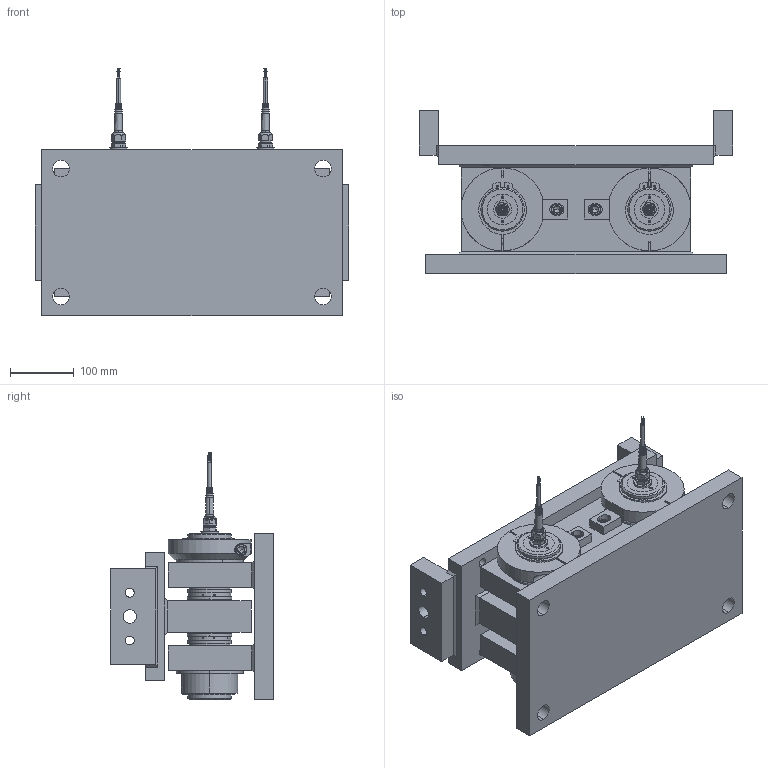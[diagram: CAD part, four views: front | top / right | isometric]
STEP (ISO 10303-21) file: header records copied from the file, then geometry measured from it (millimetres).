
FILE_DESCRIPTION (( 'STEP AP214' ), '1' );
FILE_NAME ('FMU-5 100 kN Module.STEP', '2021-06-17T09:01:38', ( '' ), ( '' ), 'SwSTEP 2.0', 'SolidWorks 2021', '' );
FILE_SCHEMA (( 'AUTOMOTIVE_DESIGN' ));
Length unit declared in the file: millimetre
Products named in the file (18): 500779r0 Rotationslås; Silicone^1164645 - KISD-6R 50kN Rostfri; SGA 68; 500919r0 Underplatta ; 1164645 - KISD-6R 50kN Rostfri; 500920r0 Överplatta med okplåt _Default<As Machined>; M12x40; FMU-5 100 kN Module; 600444r0 Distansring; 500779r0  Rotationslås; Wiberger-frp_A2_8x16; Pg9 - 1009.52 6_2_14; Kabel; 600443r0 Bussning; 5211311r1; 4102482r2; M12x20; M26x1.5 - Pg9 - 6369829
Assembly tree (31 placements, depth 3):
  FMU-5 100 kN Module
    500919r0 Underplatta 
    500920r0 Överplatta med okplåt _Default<As Machined>
    600443r0 Bussning  x4
    600444r0 Distansring  x2
    500779r0 Rotationslås  x2
      500779r0  Rotationslås
      M12x20
    SGA 68  x4
    M12x40  x2
    1164645 - KISD-6R 50kN Rostfri  x2
      4102482r2
      5211311r1
      M26x1.5 - Pg9 - 6369829
      Pg9 - 1009.52 6_2_14
      Silicone^1164645 - KISD-6R 50kN Rostfri
      Wiberger-frp_A2_8x16
    Kabel  x2
Bounding box: 490 x 255 x 387.1 mm (x, y, z)
Volume: 14449129.1 mm3; surface area: 1477658.5 mm2
Topology: 38 solids, 44 shells, 1187 faces, 2700 edges, 1660 vertices
Faces by surface type: cylinder 510, plane 367, cone 198, bspline 60, torus 52
Entity records: 19158 total; most frequent: CARTESIAN_POINT 3929, DIRECTION 2953, ORIENTED_EDGE 2558, EDGE_CURVE 1279, AXIS2_PLACEMENT_3D 1191, VERTEX_POINT 797, EDGE_LOOP 682, CIRCLE 628
